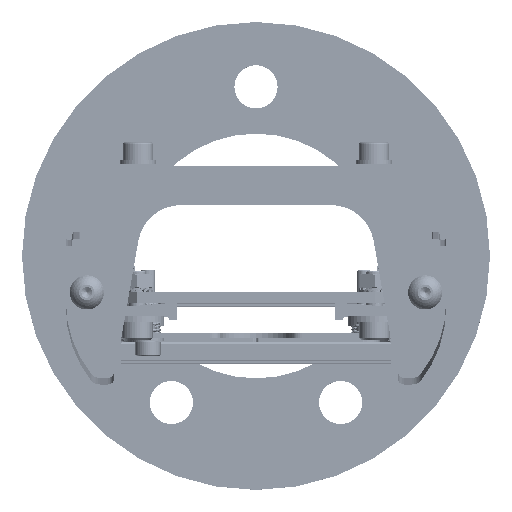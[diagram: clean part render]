
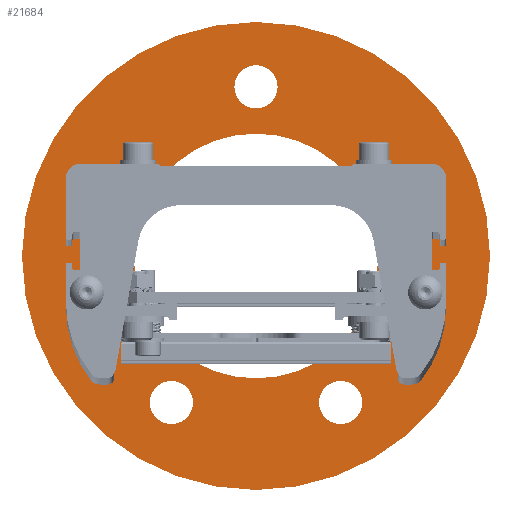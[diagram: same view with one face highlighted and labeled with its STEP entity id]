
A CAD part, top view. The second image highlights one B-rep face of the part: STEP entity #21684.
In plain terms, the highlighted planar face has unit normal (0, 0, 1).
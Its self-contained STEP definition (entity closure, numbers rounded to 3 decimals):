
#11638=FACE_BOUND('',#38311,.T.);
#11639=FACE_BOUND('',#38312,.T.);
#11640=FACE_BOUND('',#38313,.T.);
#11641=FACE_BOUND('',#38314,.T.);
#11642=FACE_BOUND('',#38315,.T.);
#11643=FACE_BOUND('',#38316,.T.);
#11644=FACE_BOUND('',#38317,.T.);
#15798=CIRCLE('',#129264,6.);
#15799=CIRCLE('',#129265,6.);
#15800=CIRCLE('',#129266,6.);
#15801=CIRCLE('',#129267,34.);
#15802=CIRCLE('',#129268,3.6);
#15803=CIRCLE('',#129269,3.6);
#15804=CIRCLE('',#129270,65.);
#21684=ADVANCED_FACE('',(#11638,#11639,#11640,#11641,#11642,#11643,#11644),
#26600,.T.);
#26600=PLANE('',#129271);
#38311=EDGE_LOOP('',(#60348));
#38312=EDGE_LOOP('',(#60349));
#38313=EDGE_LOOP('',(#60350));
#38314=EDGE_LOOP('',(#60351));
#38315=EDGE_LOOP('',(#60352));
#38316=EDGE_LOOP('',(#60353));
#38317=EDGE_LOOP('',(#60354));
#60348=ORIENTED_EDGE('',*,*,#96591,.F.);
#60349=ORIENTED_EDGE('',*,*,#96592,.F.);
#60350=ORIENTED_EDGE('',*,*,#96593,.F.);
#60351=ORIENTED_EDGE('',*,*,#96594,.T.);
#60352=ORIENTED_EDGE('',*,*,#96595,.T.);
#60353=ORIENTED_EDGE('',*,*,#96596,.T.);
#60354=ORIENTED_EDGE('',*,*,#96597,.F.);
#82198=VERTEX_POINT('',#219540);
#82199=VERTEX_POINT('',#219542);
#82200=VERTEX_POINT('',#219544);
#82201=VERTEX_POINT('',#219546);
#82202=VERTEX_POINT('',#219548);
#82203=VERTEX_POINT('',#219550);
#82204=VERTEX_POINT('',#219552);
#96591=EDGE_CURVE('',#82198,#82198,#15798,.T.);
#96592=EDGE_CURVE('',#82199,#82199,#15799,.T.);
#96593=EDGE_CURVE('',#82200,#82200,#15800,.T.);
#96594=EDGE_CURVE('',#82201,#82201,#15801,.T.);
#96595=EDGE_CURVE('',#82202,#82202,#15802,.T.);
#96596=EDGE_CURVE('',#82203,#82203,#15803,.T.);
#96597=EDGE_CURVE('',#82204,#82204,#15804,.T.);
#129264=AXIS2_PLACEMENT_3D('',#219539,#155667,#155668);
#129265=AXIS2_PLACEMENT_3D('',#219541,#155669,#155670);
#129266=AXIS2_PLACEMENT_3D('',#219543,#155671,#155672);
#129267=AXIS2_PLACEMENT_3D('',#219545,#155673,#155674);
#129268=AXIS2_PLACEMENT_3D('',#219547,#155675,#155676);
#129269=AXIS2_PLACEMENT_3D('',#219549,#155677,#155678);
#129270=AXIS2_PLACEMENT_3D('',#219551,#155679,#155680);
#129271=AXIS2_PLACEMENT_3D('',#219553,#155681,#155682);
#155667=DIRECTION('',(0.,0.,1.));
#155668=DIRECTION('',(-1.,0.,0.));
#155669=DIRECTION('',(0.,0.,1.));
#155670=DIRECTION('',(-1.,0.,0.));
#155671=DIRECTION('',(0.,0.,1.));
#155672=DIRECTION('',(-1.,0.,0.));
#155673=DIRECTION('',(0.,0.,-1.));
#155674=DIRECTION('',(-1.,0.,0.));
#155675=DIRECTION('',(0.,0.,-1.));
#155676=DIRECTION('',(1.,0.,0.));
#155677=DIRECTION('',(0.,0.,-1.));
#155678=DIRECTION('',(1.,0.,0.));
#155679=DIRECTION('',(0.,0.,-1.));
#155680=DIRECTION('',(-1.,0.,0.));
#155681=DIRECTION('',(0.,0.,1.));
#155682=DIRECTION('',(-1.,0.,0.));
#219539=CARTESIAN_POINT('',(293.846,-100.913,-285.));
#219540=CARTESIAN_POINT('',(287.846,-100.913,-285.));
#219541=CARTESIAN_POINT('',(317.346,-13.21,-285.));
#219542=CARTESIAN_POINT('',(311.346,-13.21,-285.));
#219543=CARTESIAN_POINT('',(340.846,-100.913,-285.));
#219544=CARTESIAN_POINT('',(334.846,-100.913,-285.));
#219545=CARTESIAN_POINT('',(317.346,-60.21,-285.));
#219546=CARTESIAN_POINT('',(283.346,-60.21,-285.));
#219547=CARTESIAN_POINT('',(364.346,-72.21,-285.));
#219548=CARTESIAN_POINT('',(367.946,-72.21,-285.));
#219549=CARTESIAN_POINT('',(270.346,-72.21,-285.));
#219550=CARTESIAN_POINT('',(273.946,-72.21,-285.));
#219551=CARTESIAN_POINT('',(317.346,-60.21,-285.));
#219552=CARTESIAN_POINT('',(252.346,-60.21,-285.));
#219553=CARTESIAN_POINT('',(252.346,-60.21,-285.));
